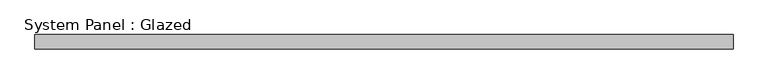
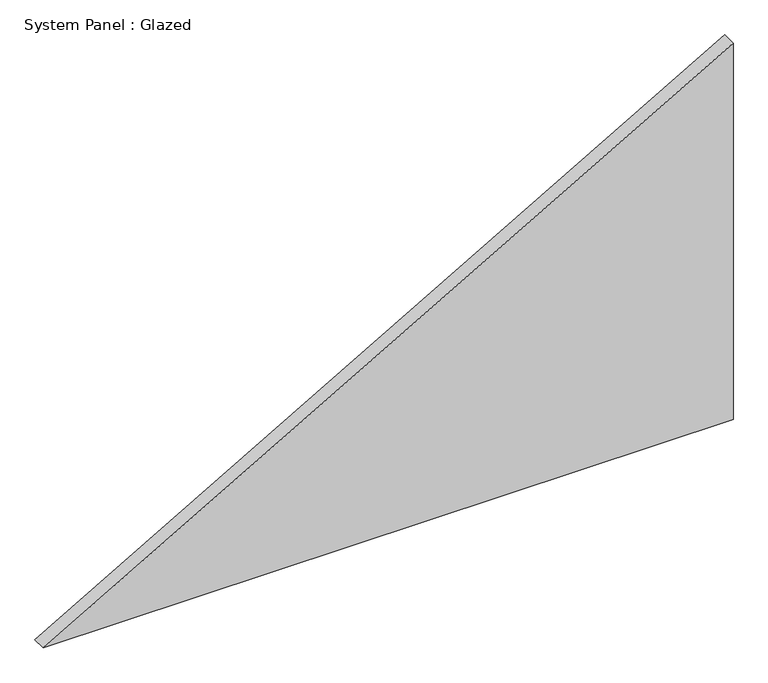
"""IFC4 building model written with IfcOpenShell, lengths in millimetres: plate geometry, System Panel : Glazed."""

from ifc_helpers import new_model, si_unit, frame, origin, place, context, project, spatial, polyline, outline, extrude, source, transform, mapped, element, save


def system_panel_glazed_c12f40d2(model_context):
    return source(origin(), model_context, "Body", "SweptSolid", [
        extrude(outline(polyline([(0.0, -604.9003575), (0.0, 604.9003575), (698.4787685, 604.9003575), (0.0, -604.9003575)])), frame((0.0, -49.5, 0.0), z_axis=(0.0, 1.0, 0.0), x_axis=(0.0, 0.0, 1.0)), (0.0, 0.0, 1.0), 25.0),
    ])


if __name__ == "__main__":
    model = new_model("IFC4")
    model_context = context("Model", 3, world=origin())
    ifc_project = project(units=[si_unit("LENGTHUNIT", "METRE", prefix="MILLI")], contexts=[model_context])
    site = spatial("IfcSite", under=ifc_project)
    building = spatial("IfcBuilding", under=site)
    placement = place(None, origin())
    system_panel_glazed_shape = system_panel_glazed_c12f40d2(model_context)
    element("IfcPlate", 1, ObjectType="System Panel : Glazed", at=placement, inside=building, context=model_context, shape_type="MappedRepresentation", body=[
        mapped(system_panel_glazed_shape, transform((0.0, 0.0, 0.0), x_axis=(1.0, 0.0, 0.0), y_axis=(0.0, 1.0, 0.0), z_axis=(0.0, 0.0, 1.0))),
    ])
    save(model, "model.ifc")
